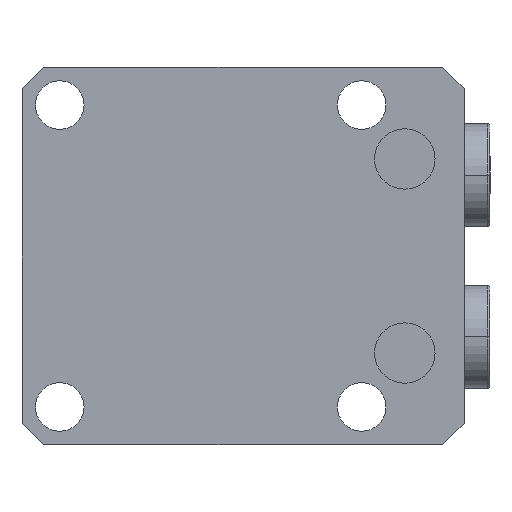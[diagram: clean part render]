
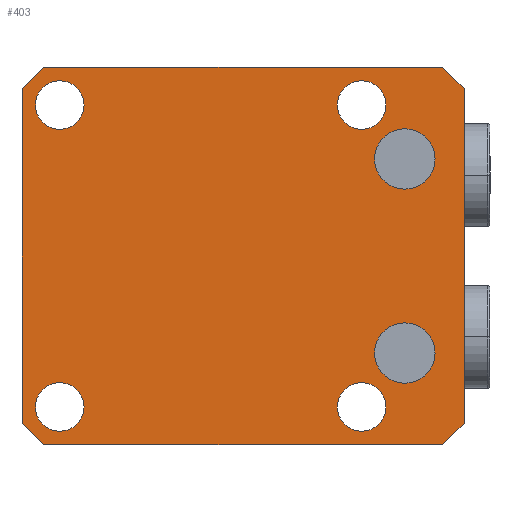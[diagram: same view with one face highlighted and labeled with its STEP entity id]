
A CAD part, front view. The second image highlights one B-rep face of the part: STEP entity #403.
In plain terms, the highlighted planar face has unit normal (0, -1, 0).
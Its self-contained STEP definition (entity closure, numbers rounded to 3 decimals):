
#147=FACE_BOUND('',#972,.T.);
#148=FACE_BOUND('',#973,.T.);
#149=FACE_BOUND('',#974,.T.);
#150=FACE_BOUND('',#975,.T.);
#151=FACE_BOUND('',#976,.T.);
#152=FACE_BOUND('',#977,.T.);
#153=FACE_BOUND('',#978,.T.);
#212=PLANE('',#4336);
#403=ADVANCED_FACE('',(#147,#148,#149,#150,#151,#152,#153),#212,.T.);
#972=EDGE_LOOP('',(#1985,#1986));
#973=EDGE_LOOP('',(#1987,#1988));
#974=EDGE_LOOP('',(#1989,#1990));
#975=EDGE_LOOP('',(#1991,#1992));
#976=EDGE_LOOP('',(#1993,#1994));
#977=EDGE_LOOP('',(#1995,#1996));
#978=EDGE_LOOP('',(#1997,#1998,#1999,#2000,#2001,#2002,#2003,#2004));
#1258=LINE('',#6254,#1552);
#1279=LINE('',#6627,#1573);
#1280=LINE('',#6630,#1574);
#1281=LINE('',#6631,#1575);
#1282=LINE('',#6633,#1576);
#1283=LINE('',#6635,#1577);
#1284=LINE('',#6637,#1578);
#1285=LINE('',#6639,#1579);
#1552=VECTOR('',#4916,1.);
#1573=VECTOR('',#4985,1.);
#1574=VECTOR('',#4986,1.);
#1575=VECTOR('',#4987,1.);
#1576=VECTOR('',#4988,1.);
#1577=VECTOR('',#4989,1.);
#1578=VECTOR('',#4990,1.);
#1579=VECTOR('',#4991,1.);
#1985=ORIENTED_EDGE('',*,*,#3539,.F.);
#1986=ORIENTED_EDGE('',*,*,#3408,.F.);
#1987=ORIENTED_EDGE('',*,*,#3540,.F.);
#1988=ORIENTED_EDGE('',*,*,#3412,.F.);
#1989=ORIENTED_EDGE('',*,*,#3516,.T.);
#1990=ORIENTED_EDGE('',*,*,#3446,.T.);
#1991=ORIENTED_EDGE('',*,*,#3512,.T.);
#1992=ORIENTED_EDGE('',*,*,#3454,.T.);
#1993=ORIENTED_EDGE('',*,*,#3510,.T.);
#1994=ORIENTED_EDGE('',*,*,#3458,.T.);
#1995=ORIENTED_EDGE('',*,*,#3514,.T.);
#1996=ORIENTED_EDGE('',*,*,#3450,.T.);
#1997=ORIENTED_EDGE('',*,*,#3541,.F.);
#1998=ORIENTED_EDGE('',*,*,#3542,.T.);
#1999=ORIENTED_EDGE('',*,*,#3474,.F.);
#2000=ORIENTED_EDGE('',*,*,#3543,.T.);
#2001=ORIENTED_EDGE('',*,*,#3544,.F.);
#2002=ORIENTED_EDGE('',*,*,#3545,.T.);
#2003=ORIENTED_EDGE('',*,*,#3546,.F.);
#2004=ORIENTED_EDGE('',*,*,#3547,.T.);
#3016=VERTEX_POINT('',#6089);
#3017=VERTEX_POINT('',#6091);
#3020=VERTEX_POINT('',#6098);
#3021=VERTEX_POINT('',#6100);
#3050=VERTEX_POINT('',#6178);
#3051=VERTEX_POINT('',#6179);
#3054=VERTEX_POINT('',#6187);
#3055=VERTEX_POINT('',#6188);
#3058=VERTEX_POINT('',#6196);
#3059=VERTEX_POINT('',#6197);
#3062=VERTEX_POINT('',#6205);
#3063=VERTEX_POINT('',#6206);
#3078=VERTEX_POINT('',#6255);
#3079=VERTEX_POINT('',#6256);
#3121=VERTEX_POINT('',#6628);
#3122=VERTEX_POINT('',#6629);
#3123=VERTEX_POINT('',#6632);
#3124=VERTEX_POINT('',#6634);
#3125=VERTEX_POINT('',#6636);
#3126=VERTEX_POINT('',#6638);
#3408=EDGE_CURVE('',#3016,#3017,#4004,.T.);
#3412=EDGE_CURVE('',#3020,#3021,#4006,.T.);
#3446=EDGE_CURVE('',#3050,#3051,#4020,.T.);
#3450=EDGE_CURVE('',#3054,#3055,#4022,.T.);
#3454=EDGE_CURVE('',#3058,#3059,#4024,.T.);
#3458=EDGE_CURVE('',#3062,#3063,#4026,.T.);
#3474=EDGE_CURVE('',#3078,#3079,#1258,.T.);
#3510=EDGE_CURVE('',#3063,#3062,#4034,.T.);
#3512=EDGE_CURVE('',#3059,#3058,#4036,.T.);
#3514=EDGE_CURVE('',#3055,#3054,#4038,.T.);
#3516=EDGE_CURVE('',#3051,#3050,#4040,.T.);
#3539=EDGE_CURVE('',#3017,#3016,#4043,.T.);
#3540=EDGE_CURVE('',#3021,#3020,#4044,.T.);
#3541=EDGE_CURVE('',#3121,#3122,#1279,.T.);
#3542=EDGE_CURVE('',#3121,#3079,#1280,.T.);
#3543=EDGE_CURVE('',#3078,#3123,#1281,.T.);
#3544=EDGE_CURVE('',#3124,#3123,#1282,.T.);
#3545=EDGE_CURVE('',#3124,#3125,#1283,.T.);
#3546=EDGE_CURVE('',#3126,#3125,#1284,.T.);
#3547=EDGE_CURVE('',#3126,#3122,#1285,.T.);
#4004=CIRCLE('',#4268,5.6);
#4006=CIRCLE('',#4271,5.6);
#4020=CIRCLE('',#4295,4.5);
#4022=CIRCLE('',#4298,4.5);
#4024=CIRCLE('',#4301,4.5);
#4026=CIRCLE('',#4304,4.5);
#4034=CIRCLE('',#4320,4.5);
#4036=CIRCLE('',#4323,4.5);
#4038=CIRCLE('',#4326,4.5);
#4040=CIRCLE('',#4329,4.5);
#4043=CIRCLE('',#4334,5.6);
#4044=CIRCLE('',#4335,5.6);
#4268=AXIS2_PLACEMENT_3D('',#6090,#4791,#4792);
#4271=AXIS2_PLACEMENT_3D('',#6099,#4799,#4800);
#4295=AXIS2_PLACEMENT_3D('',#6177,#4866,#4867);
#4298=AXIS2_PLACEMENT_3D('',#6186,#4874,#4875);
#4301=AXIS2_PLACEMENT_3D('',#6195,#4882,#4883);
#4304=AXIS2_PLACEMENT_3D('',#6204,#4890,#4891);
#4320=AXIS2_PLACEMENT_3D('',#6487,#4953,#4954);
#4323=AXIS2_PLACEMENT_3D('',#6490,#4959,#4960);
#4326=AXIS2_PLACEMENT_3D('',#6493,#4965,#4966);
#4329=AXIS2_PLACEMENT_3D('',#6496,#4971,#4972);
#4334=AXIS2_PLACEMENT_3D('',#6625,#4981,#4982);
#4335=AXIS2_PLACEMENT_3D('',#6626,#4983,#4984);
#4336=AXIS2_PLACEMENT_3D('',#6640,#4992,#4993);
#4791=DIRECTION('',(0.,-1.,0.));
#4792=DIRECTION('',(0.,0.,-1.));
#4799=DIRECTION('',(0.,-1.,0.));
#4800=DIRECTION('',(0.,0.,-1.));
#4866=DIRECTION('',(0.,1.,0.));
#4867=DIRECTION('',(0.,0.,-1.));
#4874=DIRECTION('',(0.,1.,0.));
#4875=DIRECTION('',(0.,0.,-1.));
#4882=DIRECTION('',(0.,1.,0.));
#4883=DIRECTION('',(0.,0.,-1.));
#4890=DIRECTION('',(0.,1.,0.));
#4891=DIRECTION('',(0.,0.,-1.));
#4916=DIRECTION('',(1.,0.,0.));
#4953=DIRECTION('',(0.,1.,0.));
#4954=DIRECTION('',(0.,0.,-1.));
#4959=DIRECTION('',(0.,1.,0.));
#4960=DIRECTION('',(0.,0.,-1.));
#4965=DIRECTION('',(0.,1.,0.));
#4966=DIRECTION('',(0.,0.,-1.));
#4971=DIRECTION('',(0.,1.,0.));
#4972=DIRECTION('',(0.,0.,-1.));
#4981=DIRECTION('',(0.,-1.,0.));
#4982=DIRECTION('',(0.,0.,-1.));
#4983=DIRECTION('',(0.,-1.,0.));
#4984=DIRECTION('',(0.,0.,-1.));
#4985=DIRECTION('',(0.,0.,-1.));
#4986=DIRECTION('',(-0.707,0.,0.707));
#4987=DIRECTION('',(-0.707,0.,-0.707));
#4988=DIRECTION('',(0.,0.,1.));
#4989=DIRECTION('',(0.707,0.,-0.707));
#4990=DIRECTION('',(-1.,0.,0.));
#4991=DIRECTION('',(0.707,0.,0.707));
#4992=DIRECTION('',(0.,-1.,0.));
#4993=DIRECTION('',(0.,0.,-1.));
#6089=CARTESIAN_POINT('',(-36.,-83.,-12.4));
#6090=CARTESIAN_POINT('',(-36.,-83.,-18.));
#6091=CARTESIAN_POINT('',(-36.,-83.,-23.6));
#6098=CARTESIAN_POINT('',(-36.,-83.,23.6));
#6099=CARTESIAN_POINT('',(-36.,-83.,18.));
#6100=CARTESIAN_POINT('',(-36.,-83.,12.4));
#6177=CARTESIAN_POINT('',(-28.,-83.,-28.));
#6178=CARTESIAN_POINT('',(-28.,-83.,-32.5));
#6179=CARTESIAN_POINT('',(-28.,-83.,-23.5));
#6186=CARTESIAN_POINT('',(28.,-83.,28.));
#6187=CARTESIAN_POINT('',(28.,-83.,23.5));
#6188=CARTESIAN_POINT('',(28.,-83.,32.5));
#6195=CARTESIAN_POINT('',(-28.,-83.,28.));
#6196=CARTESIAN_POINT('',(-28.,-83.,23.5));
#6197=CARTESIAN_POINT('',(-28.,-83.,32.5));
#6204=CARTESIAN_POINT('',(28.,-83.,-28.));
#6205=CARTESIAN_POINT('',(28.,-83.,-32.5));
#6206=CARTESIAN_POINT('',(28.,-83.,-23.5));
#6254=CARTESIAN_POINT('',(35.,-83.,35.));
#6255=CARTESIAN_POINT('',(-43.,-83.,35.));
#6256=CARTESIAN_POINT('',(31.,-83.,35.));
#6487=CARTESIAN_POINT('',(28.,-83.,-28.));
#6490=CARTESIAN_POINT('',(-28.,-83.,28.));
#6493=CARTESIAN_POINT('',(28.,-83.,28.));
#6496=CARTESIAN_POINT('',(-28.,-83.,-28.));
#6625=CARTESIAN_POINT('',(-36.,-83.,-18.));
#6626=CARTESIAN_POINT('',(-36.,-83.,18.));
#6627=CARTESIAN_POINT('',(35.,-83.,-35.));
#6628=CARTESIAN_POINT('',(35.,-83.,31.));
#6629=CARTESIAN_POINT('',(35.,-83.,-31.));
#6630=CARTESIAN_POINT('',(33.,-83.,33.));
#6631=CARTESIAN_POINT('',(-4.,-83.,74.));
#6632=CARTESIAN_POINT('',(-47.,-83.,31.));
#6633=CARTESIAN_POINT('',(-47.,-83.,35.));
#6634=CARTESIAN_POINT('',(-47.,-83.,-31.));
#6635=CARTESIAN_POINT('',(-39.,-83.,-39.));
#6636=CARTESIAN_POINT('',(-43.,-83.,-35.));
#6637=CARTESIAN_POINT('',(35.,-83.,-35.));
#6638=CARTESIAN_POINT('',(31.,-83.,-35.));
#6639=CARTESIAN_POINT('',(68.,-83.,2.));
#6640=CARTESIAN_POINT('',(35.,-83.,35.));
